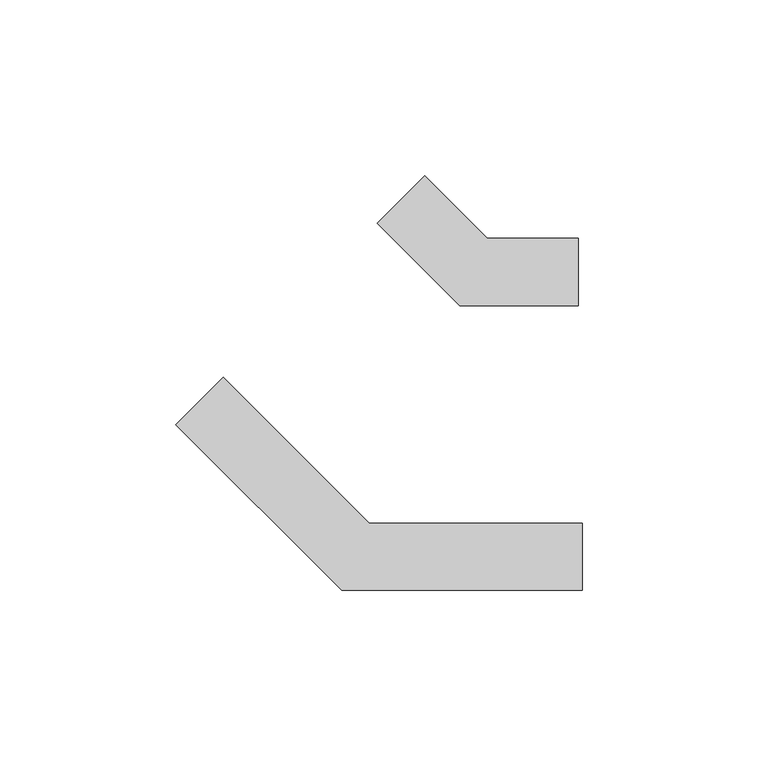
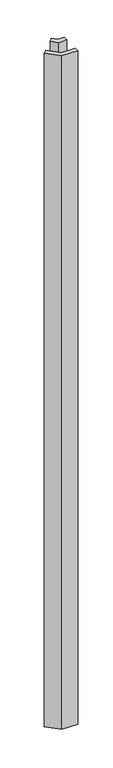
"""IFC4 building model written with IfcOpenShell, lengths in millimetres: proxy geometry, Connection-Corner-Teknion-Altos-Two_Way_FKCH132 : 135º Connection."""

from ifc_helpers import new_model, si_unit, origin, origin_with_axes, place, context, project, spatial, polyline, outline, extrude, source, transform, mapped, element, save


def specialty_equipment_5bb1abb4(model_context):
    return source(origin(), model_context, "Body", "SweptSolid", [
        extrude(outline(polyline([(49.0233446, 30.9048441), (15.2246012, 30.9048441), (-8.1996232, 54.3290685), (5.270761, 67.7994527), (23.0702133, 50.0000003), (49.0233446, 50.0000003), (49.0233446, 30.9048441)])), origin_with_axes(), (0.0, 0.0, 1.0), 3048.0),
        extrude(outline(polyline([(50.0677266, -50.0497243), (-18.3098365, -50.0497243), (-65.4441262, -2.9154346), (-51.9737421, 10.5549496), (-10.4190681, -30.9997243), (50.0677266, -30.9997243), (50.0677266, -50.0497243)])), origin_with_axes(), (0.0, 0.0, 1.0), 3048.0),
    ])


if __name__ == "__main__":
    model = new_model("IFC4")
    model_context = context("Model", 3, world=origin())
    ifc_project = project(units=[si_unit("LENGTHUNIT", "METRE", prefix="MILLI")], contexts=[model_context])
    site = spatial("IfcSite", under=ifc_project)
    building = spatial("IfcBuilding", under=site)
    placement = place(None, origin())
    specialty_equipment_shape = specialty_equipment_5bb1abb4(model_context)
    element("IfcBuildingElementProxy", 1, Name="Connection-Corner-Teknion-Altos-Two_Way_FKCH132 : 135º Connection", ObjectType="Connection-Corner-Teknion-Altos-Two_Way_FKCH132 : 135º Connection", at=placement, inside=building, context=model_context, shape_type="MappedRepresentation", body=[
        mapped(specialty_equipment_shape, transform((0.0, 0.0, 0.0), x_axis=(1.0, 0.0, 0.0), y_axis=(0.0, 1.0, 0.0), z_axis=(0.0, 0.0, 1.0))),
    ])
    save(model, "model.ifc")
